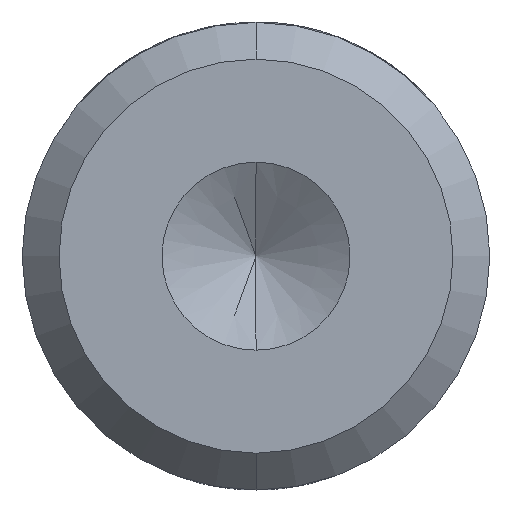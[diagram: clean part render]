
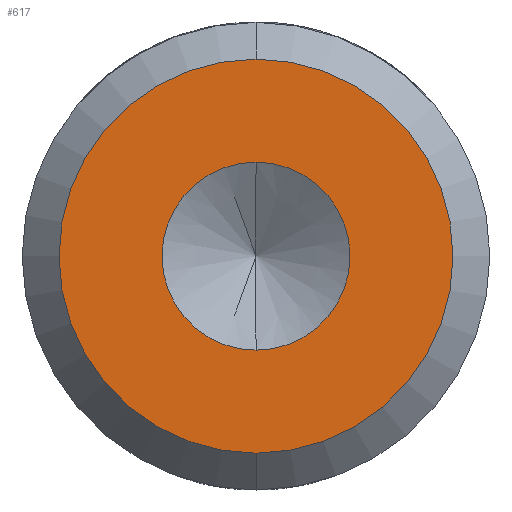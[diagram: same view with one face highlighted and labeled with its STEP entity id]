
A CAD part, front view. The second image highlights one B-rep face of the part: STEP entity #617.
In plain terms, the highlighted planar face has unit normal (0, -1, 0).
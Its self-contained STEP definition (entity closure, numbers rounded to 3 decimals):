
#15 = EDGE_CURVE ( 'NONE', #4721, #3806, #4253, .T. ) ;
#42 = CIRCLE ( 'NONE', #5533, 2.553 ) ;
#150 = CARTESIAN_POINT ( 'NONE',  ( 0., -38., 2.553 ) ) ;
#380 = EDGE_CURVE ( 'NONE', #2631, #5075, #5732, .T. ) ;
#386 = CARTESIAN_POINT ( 'NONE',  ( 0., -38., 0. ) ) ;
#616 = ORIENTED_EDGE ( 'NONE', *, *, #5267, .F. ) ;
#617 = ADVANCED_FACE ( 'NONE', ( #1201, #5141 ), #5155, .F. ) ;
#770 = DIRECTION ( 'NONE',  ( 0., 0., 1. ) ) ;
#841 = ORIENTED_EDGE ( 'NONE', *, *, #380, .F. ) ;
#857 = CARTESIAN_POINT ( 'NONE',  ( 0., -38., 0. ) ) ;
#1201 = FACE_BOUND ( 'NONE', #5054, .T. ) ;
#1257 = EDGE_CURVE ( 'NONE', #3806, #4721, #3951, .T. ) ;
#1562 = CARTESIAN_POINT ( 'NONE',  ( 0., -38., 5.35 ) ) ;
#1624 = EDGE_LOOP ( 'NONE', ( #3949, #5463 ) ) ;
#1691 = DIRECTION ( 'NONE',  ( 0., -1., 0. ) ) ;
#1936 = DIRECTION ( 'NONE',  ( 0., 0., -1. ) ) ;
#1968 = AXIS2_PLACEMENT_3D ( 'NONE', #4540, #5066, #4586 ) ;
#2171 = CARTESIAN_POINT ( 'NONE',  ( 0., -38., 0. ) ) ;
#2187 = AXIS2_PLACEMENT_3D ( 'NONE', #2900, #4829, #1936 ) ;
#2209 = AXIS2_PLACEMENT_3D ( 'NONE', #386, #2377, #5677 ) ;
#2377 = DIRECTION ( 'NONE',  ( 0., 1., 0. ) ) ;
#2631 = VERTEX_POINT ( 'NONE', #150 ) ;
#2900 = CARTESIAN_POINT ( 'NONE',  ( 0., -38., 0. ) ) ;
#3453 = CARTESIAN_POINT ( 'NONE',  ( 0., -38., -2.553 ) ) ;
#3806 = VERTEX_POINT ( 'NONE', #4696 ) ;
#3949 = ORIENTED_EDGE ( 'NONE', *, *, #15, .T. ) ;
#3951 = CIRCLE ( 'NONE', #1968, 5.35 ) ;
#4168 = DIRECTION ( 'NONE',  ( 0., -1., 0. ) ) ;
#4253 = CIRCLE ( 'NONE', #5372, 5.35 ) ;
#4540 = CARTESIAN_POINT ( 'NONE',  ( 0., -38., 0. ) ) ;
#4586 = DIRECTION ( 'NONE',  ( 0., 0., 1. ) ) ;
#4696 = CARTESIAN_POINT ( 'NONE',  ( 0., -38., -5.35 ) ) ;
#4721 = VERTEX_POINT ( 'NONE', #1562 ) ;
#4829 = DIRECTION ( 'NONE',  ( 0., -1., 0. ) ) ;
#5054 = EDGE_LOOP ( 'NONE', ( #616, #841 ) ) ;
#5066 = DIRECTION ( 'NONE',  ( 0., -1., 0. ) ) ;
#5075 = VERTEX_POINT ( 'NONE', #3453 ) ;
#5141 = FACE_OUTER_BOUND ( 'NONE', #1624, .T. ) ;
#5155 = PLANE ( 'NONE',  #2209 ) ;
#5267 = EDGE_CURVE ( 'NONE', #5075, #2631, #42, .T. ) ;
#5372 = AXIS2_PLACEMENT_3D ( 'NONE', #2171, #1691, #770 ) ;
#5463 = ORIENTED_EDGE ( 'NONE', *, *, #1257, .T. ) ;
#5533 = AXIS2_PLACEMENT_3D ( 'NONE', #857, #4168, #5592 ) ;
#5592 = DIRECTION ( 'NONE',  ( 0., 0., -1. ) ) ;
#5677 = DIRECTION ( 'NONE',  ( 0., 0., 1. ) ) ;
#5732 = CIRCLE ( 'NONE', #2187, 2.553 ) ;
